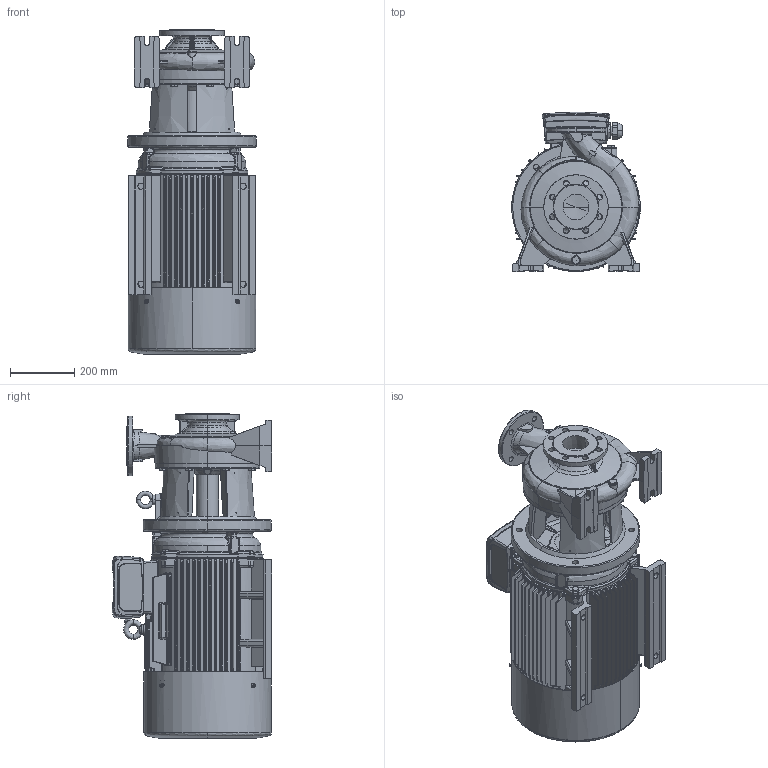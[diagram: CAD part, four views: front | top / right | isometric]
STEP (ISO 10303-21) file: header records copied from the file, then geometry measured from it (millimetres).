
FILE_DESCRIPTION (( 'STEP AP203' ), '1' );
FILE_NAME ('CNG 65-250A-B.STEP', '2022-07-28T14:15:47', ( '' ), ( '' ), 'SwSTEP 2.0', 'SolidWorks 2021', '' );
FILE_SCHEMA (( 'CONFIG_CONTROL_DESIGN' ));
Products named in the file (1): CNG 65-250A-B
Bounding box: 400 x 495.4 x 1010 mm (x, y, z)
Surface area: 3802632.7 mm2 (no closed solid volume)
Topology: 0 solids, 11 shells, 8173 faces, 22224 edges, 14121 vertices
Faces by surface type: cylinder 3061, plane 2725, bspline 1900, cone 393, torus 66, sphere 28
Entity records: 431509 total; most frequent: CARTESIAN_POINT 278019, ORIENTED_EDGE 44349, EDGE_CURVE 22202, B_SPLINE_CURVE_WITH_KNOTS 20712, VERTEX_POINT 14121, DIRECTION 12548, EDGE_LOOP 9340, FACE_OUTER_BOUND 8173
